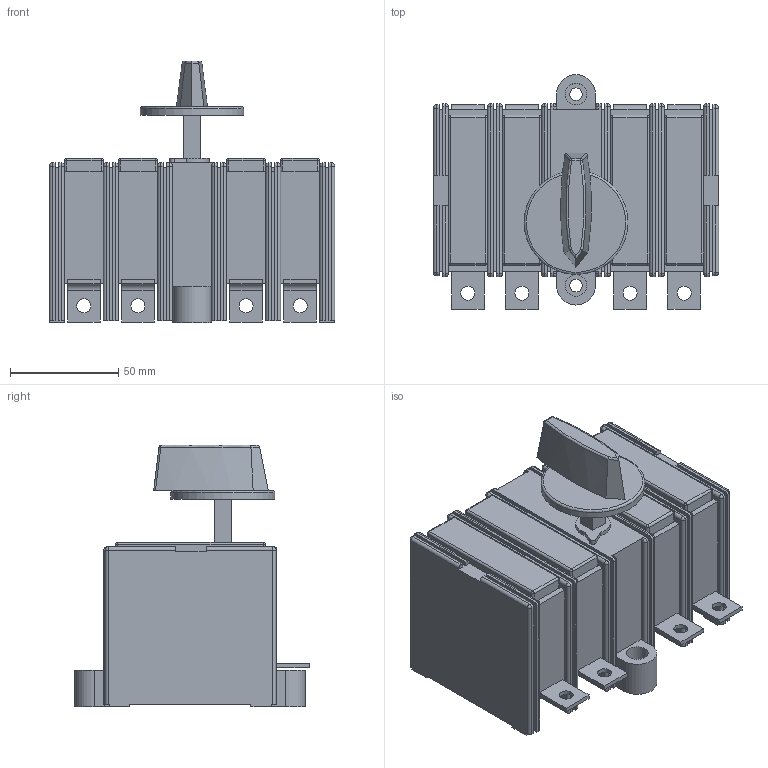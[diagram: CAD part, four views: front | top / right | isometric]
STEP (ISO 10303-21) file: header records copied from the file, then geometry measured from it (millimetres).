
FILE_DESCRIPTION(/* description */ (''),/* implementation_level */ '2;1');
FILE_NAME(/* name */ 'RA100 P3 NA-R, RA100 P4 A-R.stp',/* time_stamp */ '2021-08-17T12:42:27+02:00',/* author */ (''),/* organization */ (''),/* preprocessor_version */ 'ST-DEVELOPER v18.1',/* originating_system */ 'SIEMENS PLM Software NX 1965',/* authorisation */ '');
FILE_SCHEMA (('AUTOMOTIVE_DESIGN { 1 0 10303 214 3 1 1 1 }'));
Length unit declared in the file: millimetre
Products named in the file (1): RA100 P3 NA-R, RA100 P4 A-R_stp
Bounding box: 132 x 108.51 x 121 mm (x, y, z)
Volume: 677226.6 mm3; surface area: 83945.4 mm2
Topology: 1 solids, 1 shells, 398 faces, 1066 edges, 633 vertices
Faces by surface type: plane 223, cylinder 126, sphere 41, bspline 7, torus 1
Full cylindrical faces by diameter (mm): 5.8 x2, 6.5 x8, 10 x2, 48 x1
Entity records: 12028 total; most frequent: CARTESIAN_POINT 2274, DIRECTION 2026, ORIENTED_EDGE 2012, EDGE_CURVE 1006, LINE 732, VECTOR 732, AXIS2_PLACEMENT_3D 647, VERTEX_POINT 629
